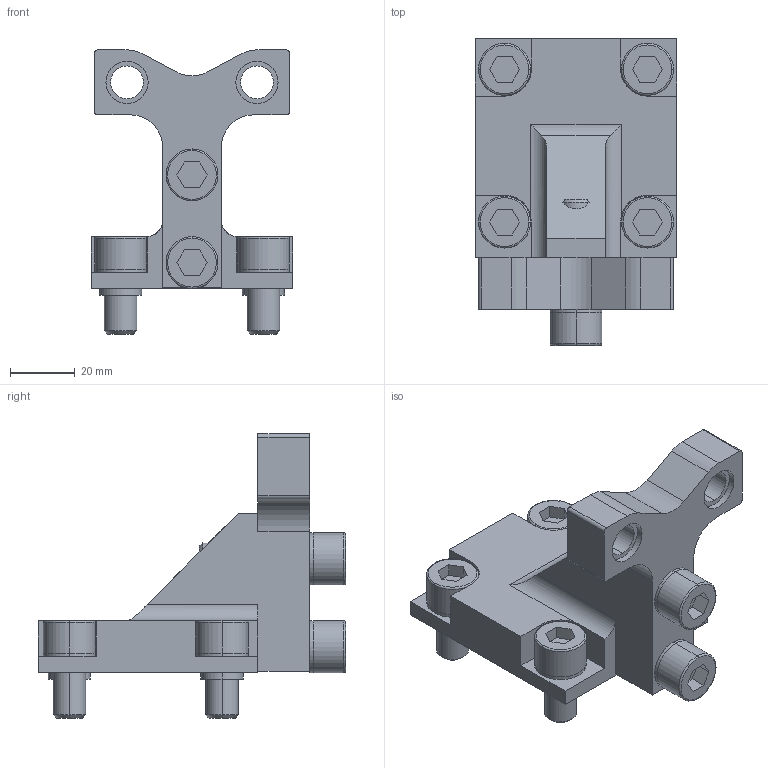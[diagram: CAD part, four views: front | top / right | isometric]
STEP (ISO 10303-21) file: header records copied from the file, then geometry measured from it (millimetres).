
FILE_DESCRIPTION (( 'STEP AP214' ), '1' );
FILE_NAME ('867.1-62-M12-Z-NC.step', '2023-08-01T13:22:28', ( '' ), ( '' ), 'SwSTEP 2.0', 'SolidWorks 2022', '' );
FILE_SCHEMA (( 'AUTOMOTIVE_DESIGN' ));
Length unit declared in the file: millimetre
Products named in the file (1): 867.1-62-M12-Z-NC
Bounding box: 62 x 94.5 x 87.5 mm (x, y, z)
Volume: 113150.8 mm3; surface area: 28797.9 mm2
Topology: 1 solids, 3 shells, 203 faces, 479 edges, 312 vertices
Faces by surface type: plane 105, cylinder 77, torus 12, cone 9
Entity records: 7378 total; most frequent: DIRECTION 1062, CARTESIAN_POINT 1026, ORIENTED_EDGE 958, EDGE_CURVE 479, AXIS2_PLACEMENT_3D 388, VERTEX_POINT 312, VECTOR 286, LINE 286
